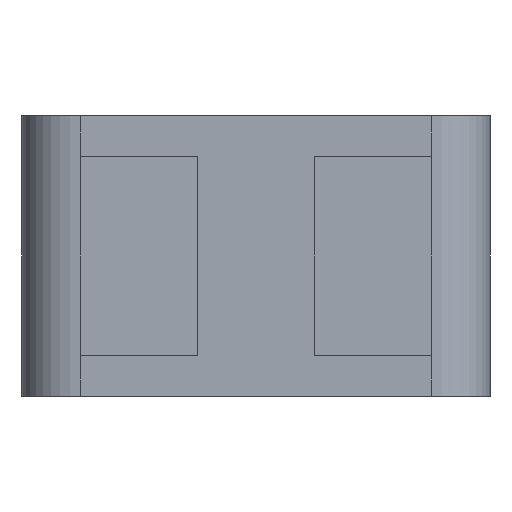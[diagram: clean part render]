
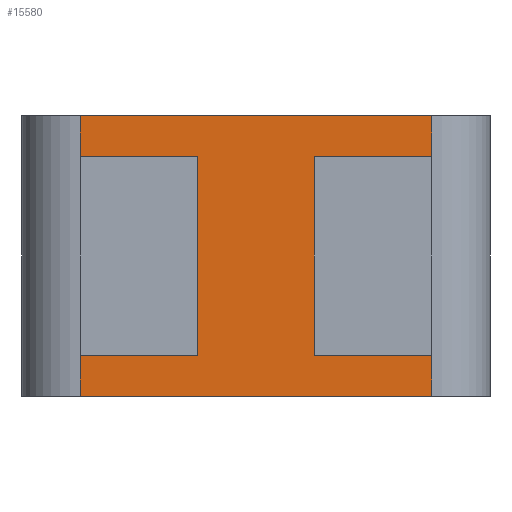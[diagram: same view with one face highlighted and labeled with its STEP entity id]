
A CAD part, left-side view. The second image highlights one B-rep face of the part: STEP entity #15580.
In plain terms, the highlighted planar face has unit normal (-1, 0, 0).
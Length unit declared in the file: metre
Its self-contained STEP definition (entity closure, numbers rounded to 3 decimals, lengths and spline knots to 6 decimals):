
#609 = LINE ( 'NONE', #18305, #11599 ) ;
#748 = CARTESIAN_POINT ( 'NONE',  ( -0.01, 0.01, 0. ) ) ;
#788 = ORIENTED_EDGE ( 'NONE', *, *, #7889, .T. ) ;
#797 = EDGE_CURVE ( 'NONE', #17728, #1673, #11852, .T. ) ;
#1010 = ORIENTED_EDGE ( 'NONE', *, *, #9756, .F. ) ;
#1262 = EDGE_CURVE ( 'NONE', #1616, #19109, #2385, .T. ) ;
#1384 = CARTESIAN_POINT ( 'NONE',  ( -0.01, 0.01, 0.012 ) ) ;
#1545 = VERTEX_POINT ( 'NONE', #16365 ) ;
#1616 = VERTEX_POINT ( 'NONE', #3079 ) ;
#1673 = VERTEX_POINT ( 'NONE', #7454 ) ;
#2007 = VECTOR ( 'NONE', #17625, 1. ) ;
#2092 = LINE ( 'NONE', #15625, #18898 ) ;
#2385 = LINE ( 'NONE', #748, #14844 ) ;
#2799 = VECTOR ( 'NONE', #24752, 1. ) ;
#3018 = ORIENTED_EDGE ( 'NONE', *, *, #3744, .T. ) ;
#3079 = CARTESIAN_POINT ( 'NONE',  ( -0.01, 0.0075, 0. ) ) ;
#3178 = ORIENTED_EDGE ( 'NONE', *, *, #797, .T. ) ;
#3621 = LINE ( 'NONE', #16793, #2799 ) ;
#3744 = EDGE_CURVE ( 'NONE', #4865, #1545, #4564, .T. ) ;
#4113 = VECTOR ( 'NONE', #21946, 1. ) ;
#4469 = VECTOR ( 'NONE', #14812, 1. ) ;
#4564 = LINE ( 'NONE', #20008, #10011 ) ;
#4846 = CARTESIAN_POINT ( 'NONE',  ( -0.01, -0.0025, 0.01025 ) ) ;
#4865 = VERTEX_POINT ( 'NONE', #19082 ) ;
#5195 = VECTOR ( 'NONE', #23648, 1. ) ;
#5917 = CARTESIAN_POINT ( 'NONE',  ( -0.01, 0.0075, 0.012 ) ) ;
#6057 = EDGE_CURVE ( 'NONE', #23623, #13700, #10307, .T. ) ;
#6375 = CARTESIAN_POINT ( 'NONE',  ( -0.01, 0.0075, 0.00175 ) ) ;
#6489 = LINE ( 'NONE', #12001, #16149 ) ;
#6695 = ORIENTED_EDGE ( 'NONE', *, *, #8269, .F. ) ;
#7424 = ORIENTED_EDGE ( 'NONE', *, *, #16990, .T. ) ;
#7454 = CARTESIAN_POINT ( 'NONE',  ( -0.01, -0.0075, 0.012 ) ) ;
#7889 = EDGE_CURVE ( 'NONE', #13700, #8024, #609, .T. ) ;
#8024 = VERTEX_POINT ( 'NONE', #19948 ) ;
#8027 = VECTOR ( 'NONE', #12925, 1. ) ;
#8253 = DIRECTION ( 'NONE',  ( 0., -1., 0. ) ) ;
#8269 = EDGE_CURVE ( 'NONE', #21126, #8024, #3621, .T. ) ;
#9373 = DIRECTION ( 'NONE',  ( 0., 1., 0. ) ) ;
#9639 = CARTESIAN_POINT ( 'NONE',  ( -0.01, 0.0075, 0.01025 ) ) ;
#9756 = EDGE_CURVE ( 'NONE', #23623, #1673, #14682, .T. ) ;
#10011 = VECTOR ( 'NONE', #23792, 1. ) ;
#10149 = DIRECTION ( 'NONE',  ( 0., -1., 0. ) ) ;
#10307 = LINE ( 'NONE', #17847, #5195 ) ;
#10361 = LINE ( 'NONE', #4846, #4113 ) ;
#10469 = EDGE_CURVE ( 'NONE', #13878, #17728, #22932, .T. ) ;
#10723 = EDGE_LOOP ( 'NONE', ( #18298, #788, #6695, #21865, #22807, #13787, #7424, #3018, #22931, #19782, #3178, #1010 ) ) ;
#11506 = EDGE_CURVE ( 'NONE', #21126, #20285, #2092, .T. ) ;
#11599 = VECTOR ( 'NONE', #8253, 1. ) ;
#11852 = LINE ( 'NONE', #21800, #2007 ) ;
#12001 = CARTESIAN_POINT ( 'NONE',  ( -0.01, -0.0075, 0.015 ) ) ;
#12122 = DIRECTION ( 'NONE',  ( 0., 0., 1. ) ) ;
#12424 = CARTESIAN_POINT ( 'NONE',  ( -0.01, 0.01, 0.015 ) ) ;
#12925 = DIRECTION ( 'NONE',  ( 0., -1., 0. ) ) ;
#13581 = FACE_OUTER_BOUND ( 'NONE', #10723, .T. ) ;
#13700 = VERTEX_POINT ( 'NONE', #9639 ) ;
#13787 = ORIENTED_EDGE ( 'NONE', *, *, #1262, .T. ) ;
#13878 = VERTEX_POINT ( 'NONE', #20324 ) ;
#14682 = LINE ( 'NONE', #1384, #8027 ) ;
#14812 = DIRECTION ( 'NONE',  ( 0., 0., -1. ) ) ;
#14844 = VECTOR ( 'NONE', #10149, 1. ) ;
#15181 = LINE ( 'NONE', #17177, #4469 ) ;
#15580 = ADVANCED_FACE ( 'NONE', ( #13581 ), #20101, .F. ) ;
#15625 = CARTESIAN_POINT ( 'NONE',  ( -0.01, 0.0075, 0.00175 ) ) ;
#16000 = CARTESIAN_POINT ( 'NONE',  ( -0.01, 0.0025, 0.00175 ) ) ;
#16149 = VECTOR ( 'NONE', #12122, 1. ) ;
#16365 = CARTESIAN_POINT ( 'NONE',  ( -0.01, -0.0025, 0.00175 ) ) ;
#16793 = CARTESIAN_POINT ( 'NONE',  ( -0.01, 0.0025, 0.01025 ) ) ;
#16935 = EDGE_CURVE ( 'NONE', #13878, #1545, #10361, .T. ) ;
#16990 = EDGE_CURVE ( 'NONE', #19109, #4865, #6489, .T. ) ;
#17118 = CARTESIAN_POINT ( 'NONE',  ( -0.01, 0.0075, 0.01025 ) ) ;
#17177 = CARTESIAN_POINT ( 'NONE',  ( -0.01, 0.0075, 0.015 ) ) ;
#17625 = DIRECTION ( 'NONE',  ( 0., 0., 1. ) ) ;
#17667 = AXIS2_PLACEMENT_3D ( 'NONE', #12424, #22250, #20355 ) ;
#17728 = VERTEX_POINT ( 'NONE', #21763 ) ;
#17847 = CARTESIAN_POINT ( 'NONE',  ( -0.01, 0.0075, 0.015 ) ) ;
#18298 = ORIENTED_EDGE ( 'NONE', *, *, #6057, .T. ) ;
#18305 = CARTESIAN_POINT ( 'NONE',  ( -0.01, 0.0075, 0.01025 ) ) ;
#18877 = VECTOR ( 'NONE', #19258, 1. ) ;
#18898 = VECTOR ( 'NONE', #9373, 1. ) ;
#19082 = CARTESIAN_POINT ( 'NONE',  ( -0.01, -0.0075, 0.00175 ) ) ;
#19109 = VERTEX_POINT ( 'NONE', #20753 ) ;
#19258 = DIRECTION ( 'NONE',  ( 0., -1., 0. ) ) ;
#19754 = EDGE_CURVE ( 'NONE', #20285, #1616, #15181, .T. ) ;
#19782 = ORIENTED_EDGE ( 'NONE', *, *, #10469, .T. ) ;
#19948 = CARTESIAN_POINT ( 'NONE',  ( -0.01, 0.0025, 0.01025 ) ) ;
#20008 = CARTESIAN_POINT ( 'NONE',  ( -0.01, 0.0075, 0.00175 ) ) ;
#20101 = PLANE ( 'NONE',  #17667 ) ;
#20285 = VERTEX_POINT ( 'NONE', #6375 ) ;
#20324 = CARTESIAN_POINT ( 'NONE',  ( -0.01, -0.0025, 0.01025 ) ) ;
#20355 = DIRECTION ( 'NONE',  ( 0., 1., 0. ) ) ;
#20753 = CARTESIAN_POINT ( 'NONE',  ( -0.01, -0.0075, 0. ) ) ;
#21126 = VERTEX_POINT ( 'NONE', #16000 ) ;
#21763 = CARTESIAN_POINT ( 'NONE',  ( -0.01, -0.0075, 0.01025 ) ) ;
#21800 = CARTESIAN_POINT ( 'NONE',  ( -0.01, -0.0075, 0.015 ) ) ;
#21865 = ORIENTED_EDGE ( 'NONE', *, *, #11506, .T. ) ;
#21946 = DIRECTION ( 'NONE',  ( 0., 0., -1. ) ) ;
#22250 = DIRECTION ( 'NONE',  ( 1., 0., 0. ) ) ;
#22807 = ORIENTED_EDGE ( 'NONE', *, *, #19754, .T. ) ;
#22931 = ORIENTED_EDGE ( 'NONE', *, *, #16935, .F. ) ;
#22932 = LINE ( 'NONE', #17118, #18877 ) ;
#23623 = VERTEX_POINT ( 'NONE', #5917 ) ;
#23648 = DIRECTION ( 'NONE',  ( 0., 0., -1. ) ) ;
#23792 = DIRECTION ( 'NONE',  ( 0., 1., 0. ) ) ;
#24752 = DIRECTION ( 'NONE',  ( 0., 0., 1. ) ) ;
